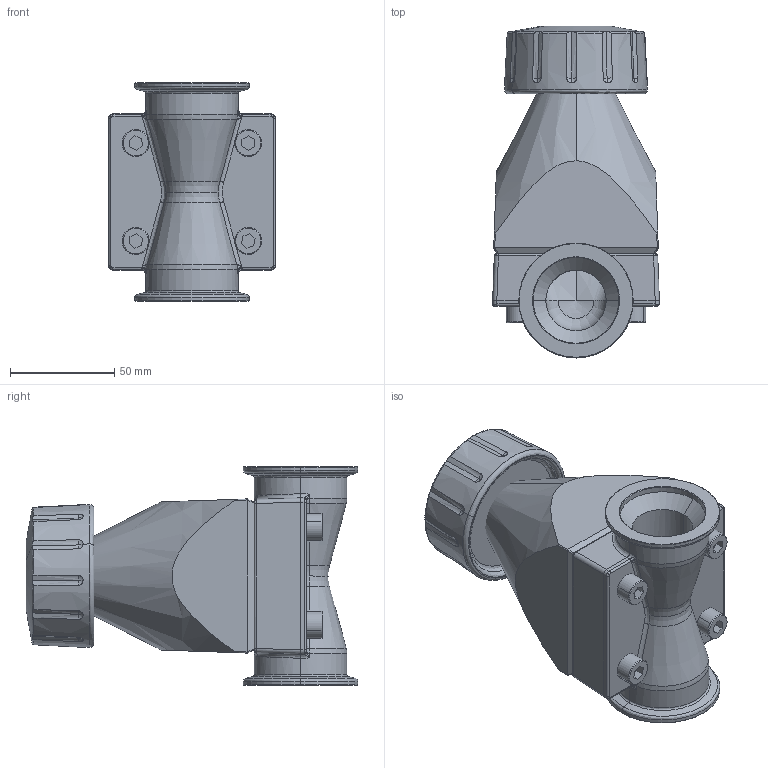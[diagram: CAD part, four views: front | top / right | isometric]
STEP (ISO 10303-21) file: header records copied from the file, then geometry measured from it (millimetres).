
FILE_DESCRIPTION(/* description */ (''),/* implementation_level */ '2;1');
FILE_NAME(/* name */ '1098895396_203.stp',/* time_stamp */ '2019-11-21T14:09:46+01:00',/* author */ (''),/* organization */ (''),/* preprocessor_version */ 'ST-DEVELOPER v16',/* originating_system */ 'SIEMENS PLM Software NX 11.0',/* authorisation */ '');
FILE_SCHEMA (('AP203_CONFIGURATION_CONTROLLED_3D_DESIGN_OF_MECHANICAL_PARTS_AND_ASSEMBLIES_MIM_LF { 1 0 10303 403 2 1 2}'));
Length unit declared in the file: millimetre
Products named in the file (6): 831673; 265431.1; 831652; 265434.1; 265428.1; 768176
Assembly tree (8 placements, depth 2):
  768176
    265428.1
    265434.1  x4
    831652
    265431.1
    831673
Bounding box: 80 x 159.25 x 105 mm (x, y, z)
Volume: 578566.2 mm3; surface area: 86199.4 mm2
Topology: 8 solids, 8 shells, 363 faces, 862 edges, 511 vertices
Faces by surface type: revolution 118, bspline 84, plane 74, cylinder 55, cone 32
Full cylindrical faces by diameter (mm): 6.2 x1
Entity records: 15790 total; most frequent: CARTESIAN_POINT 8675, ORIENTED_EDGE 1468, DIRECTION 1034, EDGE_CURVE 734, VERTEX_POINT 439, AXIS2_PLACEMENT_3D 363, EDGE_LOOP 327, ADVANCED_FACE 309
